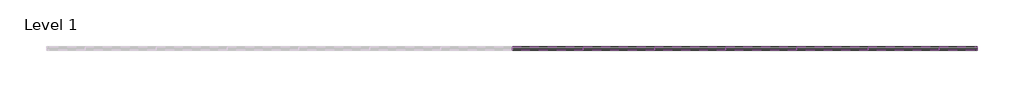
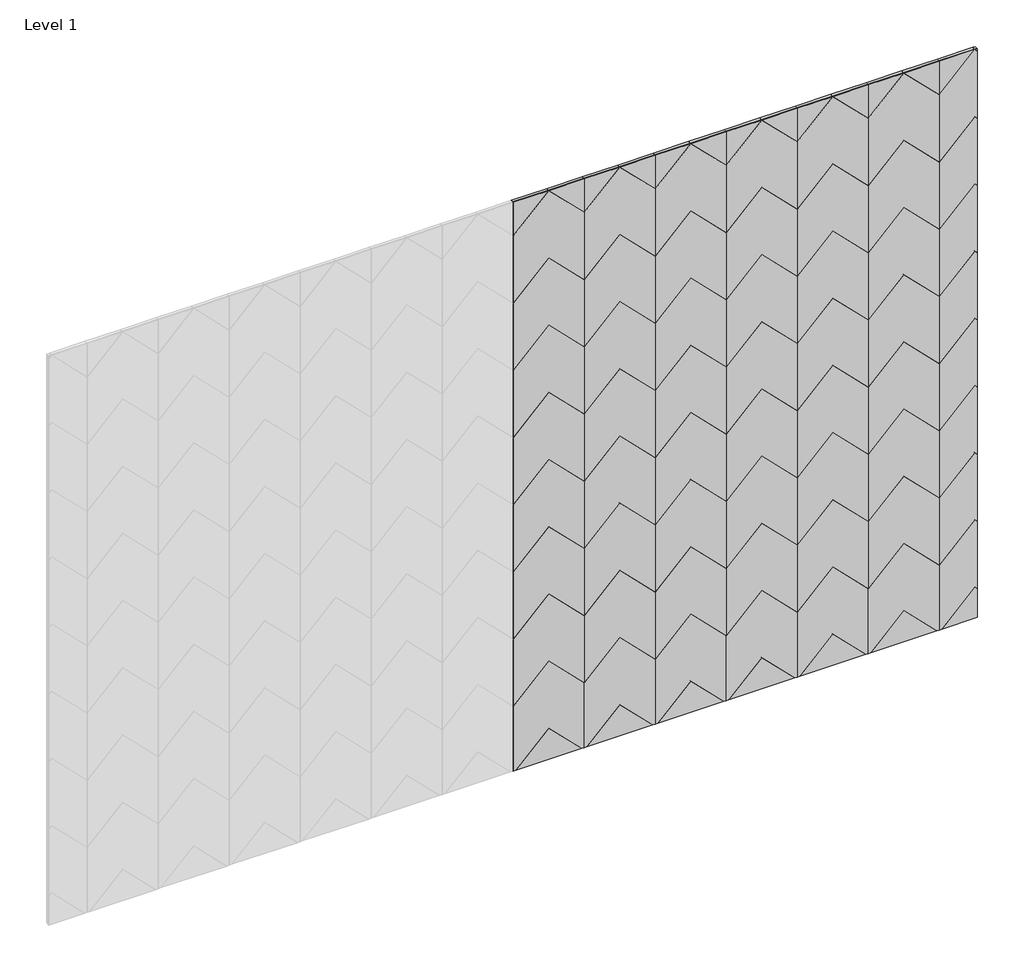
# One storey, part 2 of 2: 70 proxies.
"""IFC4 building model written with IfcOpenShell, lengths in millimetres."""

from ifc_helpers import new_model, si_unit, origin, place, context, project, spatial, transform, mapped, element, save
from components import dart_block_31c125ed, dart_block_84e837c1, dart_block_96afafd7, dart_block_090e8753, dart_block_ae4a8284, dart_block_226adf6a, dart_block_9c98eb1a, dart_block_29ca2576

model = new_model("IFC4")

# Units and contexts
model_context = context("Model", 3, world=origin())
ifc_project = project(units=[si_unit("LENGTHUNIT", "METRE", prefix="MILLI")], contexts=[model_context])

# Site, building, storey
site = spatial("IfcSite", under=ifc_project)
building = spatial("IfcBuilding", under=site)
storey = spatial("IfcBuildingStorey", under=building, Name="Level 1", Elevation=0.0)

# Proxies
placement = place(None, origin())
dart_block_shape = dart_block_31c125ed(model_context)
element("IfcBuildingElementProxy", 1, Name="FilzFelt_Dart_Block : Dart Block", ObjectType="FilzFelt_Dart_Block : Dart Block", at=placement, inside=storey, context=model_context, shape_type="MappedRepresentation", body=[
    mapped(dart_block_shape, transform((7024.9916002, -10315.1339335, 2509.5), x_axis=(1.0, 0.0, 0.0), y_axis=(0.0, 0.0, 1.0), z_axis=(0.0, -1.0, 0.0))),
])
element("IfcBuildingElementProxy", 2, Name="FilzFelt_Dart_Block : Dart Block", ObjectType="FilzFelt_Dart_Block : Dart Block", at=placement, inside=storey, context=model_context, shape_type="MappedRepresentation", body=[
    mapped(dart_block_shape, transform((7024.9916002, -10315.1339335, 1747.5), x_axis=(1.0, 0.0, 0.0), y_axis=(0.0, 0.0, 1.0), z_axis=(0.0, -1.0, 0.0))),
])
element("IfcBuildingElementProxy", 3, Name="FilzFelt_Dart_Block : Dart Block", ObjectType="FilzFelt_Dart_Block : Dart Block", at=placement, inside=storey, context=model_context, shape_type="MappedRepresentation", body=[
    mapped(dart_block_shape, transform((7024.9916002, -10315.1339335, 1239.5), x_axis=(1.0, 0.0, 0.0), y_axis=(0.0, 0.0, 1.0), z_axis=(0.0, -1.0, 0.0))),
])
element("IfcBuildingElementProxy", 4, Name="FilzFelt_Dart_Block : Dart Block", ObjectType="FilzFelt_Dart_Block : Dart Block", at=placement, inside=storey, context=model_context, shape_type="MappedRepresentation", body=[
    mapped(dart_block_shape, transform((7278.9916002, -10315.1339335, 2763.5), x_axis=(1.0, 0.0, 0.0), y_axis=(0.0, 0.0, 1.0), z_axis=(0.0, -1.0, 0.0))),
])
element("IfcBuildingElementProxy", 5, Name="FilzFelt_Dart_Block : Dart Block", ObjectType="FilzFelt_Dart_Block : Dart Block", at=placement, inside=storey, context=model_context, shape_type="MappedRepresentation", body=[
    mapped(dart_block_shape, transform((7278.9916002, -10315.1339335, 2001.5), x_axis=(1.0, 0.0, 0.0), y_axis=(0.0, 0.0, 1.0), z_axis=(0.0, -1.0, 0.0))),
])
element("IfcBuildingElementProxy", 6, Name="FilzFelt_Dart_Block : Dart Block", ObjectType="FilzFelt_Dart_Block : Dart Block", at=placement, inside=storey, context=model_context, shape_type="MappedRepresentation", body=[
    mapped(dart_block_shape, transform((7532.9916002, -10315.1339335, 2255.5), x_axis=(1.0, 0.0, 0.0), y_axis=(0.0, 0.0, 1.0), z_axis=(0.0, -1.0, 0.0))),
])
element("IfcBuildingElementProxy", 7, Name="FilzFelt_Dart_Block : Dart Block", ObjectType="FilzFelt_Dart_Block : Dart Block", at=placement, inside=storey, context=model_context, shape_type="MappedRepresentation", body=[
    mapped(dart_block_shape, transform((7532.9916002, -10315.1339335, 1239.5), x_axis=(1.0, 0.0, 0.0), y_axis=(0.0, 0.0, 1.0), z_axis=(0.0, -1.0, 0.0))),
])
element("IfcBuildingElementProxy", 8, Name="FilzFelt_Dart_Block : Dart Block", ObjectType="FilzFelt_Dart_Block : Dart Block", at=placement, inside=storey, context=model_context, shape_type="MappedRepresentation", body=[
    mapped(dart_block_shape, transform((7786.9916002, -10315.1339335, 2763.5), x_axis=(1.0, 0.0, 0.0), y_axis=(0.0, 0.0, 1.0), z_axis=(0.0, -1.0, 0.0))),
])
element("IfcBuildingElementProxy", 9, Name="FilzFelt_Dart_Block : Dart Block", ObjectType="FilzFelt_Dart_Block : Dart Block", at=placement, inside=storey, context=model_context, shape_type="MappedRepresentation", body=[
    mapped(dart_block_shape, transform((7786.9916002, -10315.1339335, 2255.5), x_axis=(1.0, 0.0, 0.0), y_axis=(0.0, 0.0, 1.0), z_axis=(0.0, -1.0, 0.0))),
])
element("IfcBuildingElementProxy", 10, Name="FilzFelt_Dart_Block : Dart Block", ObjectType="FilzFelt_Dart_Block : Dart Block", at=placement, inside=storey, context=model_context, shape_type="MappedRepresentation", body=[
    mapped(dart_block_shape, transform((7786.9916002, -10315.1339335, 1747.5), x_axis=(1.0, 0.0, 0.0), y_axis=(0.0, 0.0, 1.0), z_axis=(0.0, -1.0, 0.0))),
])
element("IfcBuildingElementProxy", 11, Name="FilzFelt_Dart_Block : Dart Block", ObjectType="FilzFelt_Dart_Block : Dart Block", at=placement, inside=storey, context=model_context, shape_type="MappedRepresentation", body=[
    mapped(dart_block_shape, transform((8040.9916002, -10315.1339335, 2509.5), x_axis=(1.0, 0.0, 0.0), y_axis=(0.0, 0.0, 1.0), z_axis=(0.0, -1.0, 0.0))),
])
element("IfcBuildingElementProxy", 12, Name="FilzFelt_Dart_Block : Dart Block", ObjectType="FilzFelt_Dart_Block : Dart Block", at=placement, inside=storey, context=model_context, shape_type="MappedRepresentation", body=[
    mapped(dart_block_shape, transform((8040.9916002, -10315.1339335, 1493.5), x_axis=(1.0, 0.0, 0.0), y_axis=(0.0, 0.0, 1.0), z_axis=(0.0, -1.0, 0.0))),
])
element("IfcBuildingElementProxy", 13, Name="FilzFelt_Dart_Block : Dart Block", ObjectType="FilzFelt_Dart_Block : Dart Block", at=placement, inside=storey, context=model_context, shape_type="MappedRepresentation", body=[
    mapped(dart_block_shape, transform((8294.9916002, -10315.1339335, 2001.5), x_axis=(1.0, 0.0, 0.0), y_axis=(0.0, 0.0, 1.0), z_axis=(0.0, -1.0, 0.0))),
])
element("IfcBuildingElementProxy", 14, Name="FilzFelt_Dart_Block : Dart Block", ObjectType="FilzFelt_Dart_Block : Dart Block", at=placement, inside=storey, context=model_context, shape_type="MappedRepresentation", body=[
    mapped(dart_block_shape, transform((8294.9916002, -10315.1339335, 1493.5), x_axis=(1.0, 0.0, 0.0), y_axis=(0.0, 0.0, 1.0), z_axis=(0.0, -1.0, 0.0))),
])
dart_block_2_shape = dart_block_84e837c1(model_context)
element("IfcBuildingElementProxy", 15, Name="FilzFelt_Dart_Block : Dart Block", ObjectType="FilzFelt_Dart_Block : Dart Block", at=placement, inside=storey, context=model_context, shape_type="MappedRepresentation", body=[
    mapped(dart_block_2_shape, transform((7024.9916002, -10315.1339335, 3017.5), x_axis=(1.0, 0.0, 0.0), y_axis=(0.0, 0.0, 1.0), z_axis=(0.0, -1.0, 0.0))),
])
element("IfcBuildingElementProxy", 16, Name="FilzFelt_Dart_Block : Dart Block", ObjectType="FilzFelt_Dart_Block : Dart Block", at=placement, inside=storey, context=model_context, shape_type="MappedRepresentation", body=[
    mapped(dart_block_2_shape, transform((8294.9916002, -10315.1339335, 3017.5), x_axis=(1.0, 0.0, 0.0), y_axis=(0.0, 0.0, 1.0), z_axis=(0.0, -1.0, 0.0))),
])
dart_block_3_shape = dart_block_96afafd7(model_context)
element("IfcBuildingElementProxy", 17, Name="FilzFelt_Dart_Block : Dart Block", ObjectType="FilzFelt_Dart_Block : Dart Block", at=placement, inside=storey, context=model_context, shape_type="MappedRepresentation", body=[
    mapped(dart_block_3_shape, transform((7278.9916002, -10315.1339335, 985.5), x_axis=(1.0, 0.0, 0.0), y_axis=(0.0, 0.0, 1.0), z_axis=(0.0, -1.0, 0.0))),
])
dart_block_4_shape = dart_block_090e8753(model_context)
element("IfcBuildingElementProxy", 18, Name="FilzFelt_Dart_Block : Dart Block", ObjectType="FilzFelt_Dart_Block : Dart Block", at=placement, inside=storey, context=model_context, shape_type="MappedRepresentation", body=[
    mapped(dart_block_4_shape, transform((8548.9916002, -10315.1339335, 2763.5), x_axis=(1.0, 0.0, 0.0), y_axis=(0.0, 0.0, 1.0), z_axis=(0.0, -1.0, 0.0))),
])
element("IfcBuildingElementProxy", 19, Name="FilzFelt_Dart_Block : Dart Block", ObjectType="FilzFelt_Dart_Block : Dart Block", at=placement, inside=storey, context=model_context, shape_type="MappedRepresentation", body=[
    mapped(dart_block_4_shape, transform((8548.9916002, -10315.1339335, 2255.5), x_axis=(1.0, 0.0, 0.0), y_axis=(0.0, 0.0, 1.0), z_axis=(0.0, -1.0, 0.0))),
])
element("IfcBuildingElementProxy", 20, Name="FilzFelt_Dart_Block : Dart Block", ObjectType="FilzFelt_Dart_Block : Dart Block", at=placement, inside=storey, context=model_context, shape_type="MappedRepresentation", body=[
    mapped(dart_block_4_shape, transform((8548.9916002, -10315.1339335, 1493.5), x_axis=(1.0, 0.0, 0.0), y_axis=(0.0, 0.0, 1.0), z_axis=(0.0, -1.0, 0.0))),
])
dart_block_5_shape = dart_block_ae4a8284(model_context)
element("IfcBuildingElementProxy", 21, Name="FilzFelt_Dart_Block : Dart Block", ObjectType="FilzFelt_Dart_Block : Dart Block", at=placement, inside=storey, context=model_context, shape_type="MappedRepresentation", body=[
    mapped(dart_block_5_shape, transform((8548.9916002, -10315.1339335, 731.5), x_axis=(1.0, 0.0, 0.0), y_axis=(0.0, 0.0, 1.0), z_axis=(0.0, -1.0, 0.0))),
])
dart_block_6_shape = dart_block_226adf6a(model_context)
element("IfcBuildingElementProxy", 22, Name="FilzFelt_Dart_Block : Dart Block", ObjectType="FilzFelt_Dart_Block : Dart Block", at=placement, inside=storey, context=model_context, shape_type="MappedRepresentation", body=[
    mapped(dart_block_6_shape, transform((8294.9916002, -10315.1339335, 731.5), x_axis=(1.0, 0.0, 0.0), y_axis=(0.0, 0.0, 1.0), z_axis=(0.0, -1.0, 0.0))),
])
element("IfcBuildingElementProxy", 23, Name="FilzFelt_Dart_Block : Dart Block", ObjectType="FilzFelt_Dart_Block : Dart Block", at=placement, inside=storey, context=model_context, shape_type="MappedRepresentation", body=[
    mapped(dart_block_6_shape, transform((8040.9916002, -10315.1339335, 731.5), x_axis=(1.0, 0.0, 0.0), y_axis=(0.0, 0.0, 1.0), z_axis=(0.0, -1.0, 0.0))),
])
element("IfcBuildingElementProxy", 24, Name="FilzFelt_Dart_Block : Dart Block", ObjectType="FilzFelt_Dart_Block : Dart Block", at=placement, inside=storey, context=model_context, shape_type="MappedRepresentation", body=[
    mapped(dart_block_6_shape, transform((7532.9916002, -10315.1339335, 731.5), x_axis=(1.0, 0.0, 0.0), y_axis=(0.0, 0.0, 1.0), z_axis=(0.0, -1.0, 0.0))),
])
element("IfcBuildingElementProxy", 25, Name="FilzFelt_Dart_Block : Dart Block", ObjectType="FilzFelt_Dart_Block : Dart Block", at=placement, inside=storey, context=model_context, shape_type="MappedRepresentation", body=[
    mapped(dart_block_6_shape, transform((7024.9916002, -10315.1339335, 731.5), x_axis=(1.0, 0.0, 0.0), y_axis=(0.0, 0.0, 1.0), z_axis=(0.0, -1.0, 0.0))),
])
element("IfcBuildingElementProxy", 26, Name="FilzFelt_Dart_Block : Dart Block", ObjectType="FilzFelt_Dart_Block : Dart Block", at=placement, inside=storey, context=model_context, shape_type="MappedRepresentation", body=[
    mapped(dart_block_shape, transform((7024.9916002, -10315.1339335, 2763.5), x_axis=(1.0, 0.0, 0.0), y_axis=(0.0, 0.0, 1.0), z_axis=(0.0, -1.0, 0.0))),
])
element("IfcBuildingElementProxy", 27, Name="FilzFelt_Dart_Block : Dart Block", ObjectType="FilzFelt_Dart_Block : Dart Block", at=placement, inside=storey, context=model_context, shape_type="MappedRepresentation", body=[
    mapped(dart_block_shape, transform((7024.9916002, -10315.1339335, 2255.5), x_axis=(1.0, 0.0, 0.0), y_axis=(0.0, 0.0, 1.0), z_axis=(0.0, -1.0, 0.0))),
])
element("IfcBuildingElementProxy", 28, Name="FilzFelt_Dart_Block : Dart Block", ObjectType="FilzFelt_Dart_Block : Dart Block", at=placement, inside=storey, context=model_context, shape_type="MappedRepresentation", body=[
    mapped(dart_block_shape, transform((7024.9916002, -10315.1339335, 1493.5), x_axis=(1.0, 0.0, 0.0), y_axis=(0.0, 0.0, 1.0), z_axis=(0.0, -1.0, 0.0))),
])
element("IfcBuildingElementProxy", 29, Name="FilzFelt_Dart_Block : Dart Block", ObjectType="FilzFelt_Dart_Block : Dart Block", at=placement, inside=storey, context=model_context, shape_type="MappedRepresentation", body=[
    mapped(dart_block_shape, transform((7278.9916002, -10315.1339335, 2255.5), x_axis=(1.0, 0.0, 0.0), y_axis=(0.0, 0.0, 1.0), z_axis=(0.0, -1.0, 0.0))),
])
element("IfcBuildingElementProxy", 30, Name="FilzFelt_Dart_Block : Dart Block", ObjectType="FilzFelt_Dart_Block : Dart Block", at=placement, inside=storey, context=model_context, shape_type="MappedRepresentation", body=[
    mapped(dart_block_shape, transform((7278.9916002, -10315.1339335, 1493.5), x_axis=(1.0, 0.0, 0.0), y_axis=(0.0, 0.0, 1.0), z_axis=(0.0, -1.0, 0.0))),
])
element("IfcBuildingElementProxy", 31, Name="FilzFelt_Dart_Block : Dart Block", ObjectType="FilzFelt_Dart_Block : Dart Block", at=placement, inside=storey, context=model_context, shape_type="MappedRepresentation", body=[
    mapped(dart_block_shape, transform((7532.9916002, -10315.1339335, 2509.5), x_axis=(1.0, 0.0, 0.0), y_axis=(0.0, 0.0, 1.0), z_axis=(0.0, -1.0, 0.0))),
])
element("IfcBuildingElementProxy", 32, Name="FilzFelt_Dart_Block : Dart Block", ObjectType="FilzFelt_Dart_Block : Dart Block", at=placement, inside=storey, context=model_context, shape_type="MappedRepresentation", body=[
    mapped(dart_block_shape, transform((7532.9916002, -10315.1339335, 1747.5), x_axis=(1.0, 0.0, 0.0), y_axis=(0.0, 0.0, 1.0), z_axis=(0.0, -1.0, 0.0))),
])
element("IfcBuildingElementProxy", 33, Name="FilzFelt_Dart_Block : Dart Block", ObjectType="FilzFelt_Dart_Block : Dart Block", at=placement, inside=storey, context=model_context, shape_type="MappedRepresentation", body=[
    mapped(dart_block_shape, transform((7786.9916002, -10315.1339335, 2001.5), x_axis=(1.0, 0.0, 0.0), y_axis=(0.0, 0.0, 1.0), z_axis=(0.0, -1.0, 0.0))),
])
element("IfcBuildingElementProxy", 34, Name="FilzFelt_Dart_Block : Dart Block", ObjectType="FilzFelt_Dart_Block : Dart Block", at=placement, inside=storey, context=model_context, shape_type="MappedRepresentation", body=[
    mapped(dart_block_shape, transform((7786.9916002, -10315.1339335, 1493.5), x_axis=(1.0, 0.0, 0.0), y_axis=(0.0, 0.0, 1.0), z_axis=(0.0, -1.0, 0.0))),
])
element("IfcBuildingElementProxy", 35, Name="FilzFelt_Dart_Block : Dart Block", ObjectType="FilzFelt_Dart_Block : Dart Block", at=placement, inside=storey, context=model_context, shape_type="MappedRepresentation", body=[
    mapped(dart_block_shape, transform((8040.9916002, -10315.1339335, 2763.5), x_axis=(1.0, 0.0, 0.0), y_axis=(0.0, 0.0, 1.0), z_axis=(0.0, -1.0, 0.0))),
])
element("IfcBuildingElementProxy", 36, Name="FilzFelt_Dart_Block : Dart Block", ObjectType="FilzFelt_Dart_Block : Dart Block", at=placement, inside=storey, context=model_context, shape_type="MappedRepresentation", body=[
    mapped(dart_block_shape, transform((8040.9916002, -10315.1339335, 2255.5), x_axis=(1.0, 0.0, 0.0), y_axis=(0.0, 0.0, 1.0), z_axis=(0.0, -1.0, 0.0))),
])
element("IfcBuildingElementProxy", 37, Name="FilzFelt_Dart_Block : Dart Block", ObjectType="FilzFelt_Dart_Block : Dart Block", at=placement, inside=storey, context=model_context, shape_type="MappedRepresentation", body=[
    mapped(dart_block_shape, transform((8040.9916002, -10315.1339335, 1747.5), x_axis=(1.0, 0.0, 0.0), y_axis=(0.0, 0.0, 1.0), z_axis=(0.0, -1.0, 0.0))),
])
element("IfcBuildingElementProxy", 38, Name="FilzFelt_Dart_Block : Dart Block", ObjectType="FilzFelt_Dart_Block : Dart Block", at=placement, inside=storey, context=model_context, shape_type="MappedRepresentation", body=[
    mapped(dart_block_shape, transform((8040.9916002, -10315.1339335, 1239.5), x_axis=(1.0, 0.0, 0.0), y_axis=(0.0, 0.0, 1.0), z_axis=(0.0, -1.0, 0.0))),
])
element("IfcBuildingElementProxy", 39, Name="FilzFelt_Dart_Block : Dart Block", ObjectType="FilzFelt_Dart_Block : Dart Block", at=placement, inside=storey, context=model_context, shape_type="MappedRepresentation", body=[
    mapped(dart_block_shape, transform((8294.9916002, -10315.1339335, 2763.5), x_axis=(1.0, 0.0, 0.0), y_axis=(0.0, 0.0, 1.0), z_axis=(0.0, -1.0, 0.0))),
])
element("IfcBuildingElementProxy", 40, Name="FilzFelt_Dart_Block : Dart Block", ObjectType="FilzFelt_Dart_Block : Dart Block", at=placement, inside=storey, context=model_context, shape_type="MappedRepresentation", body=[
    mapped(dart_block_shape, transform((8294.9916002, -10315.1339335, 2255.5), x_axis=(1.0, 0.0, 0.0), y_axis=(0.0, 0.0, 1.0), z_axis=(0.0, -1.0, 0.0))),
])
element("IfcBuildingElementProxy", 41, Name="FilzFelt_Dart_Block : Dart Block", ObjectType="FilzFelt_Dart_Block : Dart Block", at=placement, inside=storey, context=model_context, shape_type="MappedRepresentation", body=[
    mapped(dart_block_2_shape, transform((7532.9916002, -10315.1339335, 3017.5), x_axis=(1.0, 0.0, 0.0), y_axis=(0.0, 0.0, 1.0), z_axis=(0.0, -1.0, 0.0))),
])
element("IfcBuildingElementProxy", 42, Name="FilzFelt_Dart_Block : Dart Block", ObjectType="FilzFelt_Dart_Block : Dart Block", at=placement, inside=storey, context=model_context, shape_type="MappedRepresentation", body=[
    mapped(dart_block_2_shape, transform((7786.9916002, -10315.1339335, 3017.5), x_axis=(1.0, 0.0, 0.0), y_axis=(0.0, 0.0, 1.0), z_axis=(0.0, -1.0, 0.0))),
])
element("IfcBuildingElementProxy", 43, Name="FilzFelt_Dart_Block : Dart Block", ObjectType="FilzFelt_Dart_Block : Dart Block", at=placement, inside=storey, context=model_context, shape_type="MappedRepresentation", body=[
    mapped(dart_block_3_shape, transform((8294.9916002, -10315.1339335, 985.5), x_axis=(1.0, 0.0, 0.0), y_axis=(0.0, 0.0, 1.0), z_axis=(0.0, -1.0, 0.0))),
])
element("IfcBuildingElementProxy", 44, Name="FilzFelt_Dart_Block : Dart Block", ObjectType="FilzFelt_Dart_Block : Dart Block", at=placement, inside=storey, context=model_context, shape_type="MappedRepresentation", body=[
    mapped(dart_block_3_shape, transform((7786.9916002, -10315.1339335, 985.5), x_axis=(1.0, 0.0, 0.0), y_axis=(0.0, 0.0, 1.0), z_axis=(0.0, -1.0, 0.0))),
])
element("IfcBuildingElementProxy", 45, Name="FilzFelt_Dart_Block : Dart Block", ObjectType="FilzFelt_Dart_Block : Dart Block", at=placement, inside=storey, context=model_context, shape_type="MappedRepresentation", body=[
    mapped(dart_block_3_shape, transform((7532.9916002, -10315.1339335, 985.5), x_axis=(1.0, 0.0, 0.0), y_axis=(0.0, 0.0, 1.0), z_axis=(0.0, -1.0, 0.0))),
])
element("IfcBuildingElementProxy", 46, Name="FilzFelt_Dart_Block : Dart Block", ObjectType="FilzFelt_Dart_Block : Dart Block", at=placement, inside=storey, context=model_context, shape_type="MappedRepresentation", body=[
    mapped(dart_block_4_shape, transform((8548.9916002, -10315.1339335, 2509.5), x_axis=(1.0, 0.0, 0.0), y_axis=(0.0, 0.0, 1.0), z_axis=(0.0, -1.0, 0.0))),
])
element("IfcBuildingElementProxy", 47, Name="FilzFelt_Dart_Block : Dart Block", ObjectType="FilzFelt_Dart_Block : Dart Block", at=placement, inside=storey, context=model_context, shape_type="MappedRepresentation", body=[
    mapped(dart_block_4_shape, transform((8548.9916002, -10315.1339335, 2001.5), x_axis=(1.0, 0.0, 0.0), y_axis=(0.0, 0.0, 1.0), z_axis=(0.0, -1.0, 0.0))),
])
element("IfcBuildingElementProxy", 48, Name="FilzFelt_Dart_Block : Dart Block", ObjectType="FilzFelt_Dart_Block : Dart Block", at=placement, inside=storey, context=model_context, shape_type="MappedRepresentation", body=[
    mapped(dart_block_4_shape, transform((8548.9916002, -10315.1339335, 1239.5), x_axis=(1.0, 0.0, 0.0), y_axis=(0.0, 0.0, 1.0), z_axis=(0.0, -1.0, 0.0))),
])
dart_block_7_shape = dart_block_9c98eb1a(model_context)
element("IfcBuildingElementProxy", 49, Name="FilzFelt_Dart_Block : Dart Block", ObjectType="FilzFelt_Dart_Block : Dart Block", at=placement, inside=storey, context=model_context, shape_type="MappedRepresentation", body=[
    mapped(dart_block_7_shape, transform((8548.9916002, -10315.1339335, 3017.5), x_axis=(1.0, 0.0, 0.0), y_axis=(0.0, 0.0, 1.0), z_axis=(0.0, -1.0, 0.0))),
])
element("IfcBuildingElementProxy", 50, Name="FilzFelt_Dart_Block : Dart Block", ObjectType="FilzFelt_Dart_Block : Dart Block", at=placement, inside=storey, context=model_context, shape_type="MappedRepresentation", body=[
    mapped(dart_block_shape, transform((7024.9916002, -10315.1339335, 2001.5), x_axis=(1.0, 0.0, 0.0), y_axis=(0.0, 0.0, 1.0), z_axis=(0.0, -1.0, 0.0))),
])
element("IfcBuildingElementProxy", 51, Name="FilzFelt_Dart_Block : Dart Block", ObjectType="FilzFelt_Dart_Block : Dart Block", at=placement, inside=storey, context=model_context, shape_type="MappedRepresentation", body=[
    mapped(dart_block_shape, transform((7278.9916002, -10315.1339335, 2509.5), x_axis=(1.0, 0.0, 0.0), y_axis=(0.0, 0.0, 1.0), z_axis=(0.0, -1.0, 0.0))),
])
element("IfcBuildingElementProxy", 52, Name="FilzFelt_Dart_Block : Dart Block", ObjectType="FilzFelt_Dart_Block : Dart Block", at=placement, inside=storey, context=model_context, shape_type="MappedRepresentation", body=[
    mapped(dart_block_shape, transform((7278.9916002, -10315.1339335, 1747.5), x_axis=(1.0, 0.0, 0.0), y_axis=(0.0, 0.0, 1.0), z_axis=(0.0, -1.0, 0.0))),
])
element("IfcBuildingElementProxy", 53, Name="FilzFelt_Dart_Block : Dart Block", ObjectType="FilzFelt_Dart_Block : Dart Block", at=placement, inside=storey, context=model_context, shape_type="MappedRepresentation", body=[
    mapped(dart_block_shape, transform((7278.9916002, -10315.1339335, 1239.5), x_axis=(1.0, 0.0, 0.0), y_axis=(0.0, 0.0, 1.0), z_axis=(0.0, -1.0, 0.0))),
])
element("IfcBuildingElementProxy", 54, Name="FilzFelt_Dart_Block : Dart Block", ObjectType="FilzFelt_Dart_Block : Dart Block", at=placement, inside=storey, context=model_context, shape_type="MappedRepresentation", body=[
    mapped(dart_block_shape, transform((7532.9916002, -10315.1339335, 2763.5), x_axis=(1.0, 0.0, 0.0), y_axis=(0.0, 0.0, 1.0), z_axis=(0.0, -1.0, 0.0))),
])
element("IfcBuildingElementProxy", 55, Name="FilzFelt_Dart_Block : Dart Block", ObjectType="FilzFelt_Dart_Block : Dart Block", at=placement, inside=storey, context=model_context, shape_type="MappedRepresentation", body=[
    mapped(dart_block_shape, transform((7532.9916002, -10315.1339335, 2001.5), x_axis=(1.0, 0.0, 0.0), y_axis=(0.0, 0.0, 1.0), z_axis=(0.0, -1.0, 0.0))),
])
element("IfcBuildingElementProxy", 56, Name="FilzFelt_Dart_Block : Dart Block", ObjectType="FilzFelt_Dart_Block : Dart Block", at=placement, inside=storey, context=model_context, shape_type="MappedRepresentation", body=[
    mapped(dart_block_shape, transform((7532.9916002, -10315.1339335, 1493.5), x_axis=(1.0, 0.0, 0.0), y_axis=(0.0, 0.0, 1.0), z_axis=(0.0, -1.0, 0.0))),
])
element("IfcBuildingElementProxy", 57, Name="FilzFelt_Dart_Block : Dart Block", ObjectType="FilzFelt_Dart_Block : Dart Block", at=placement, inside=storey, context=model_context, shape_type="MappedRepresentation", body=[
    mapped(dart_block_shape, transform((7786.9916002, -10315.1339335, 2509.5), x_axis=(1.0, 0.0, 0.0), y_axis=(0.0, 0.0, 1.0), z_axis=(0.0, -1.0, 0.0))),
])
element("IfcBuildingElementProxy", 58, Name="FilzFelt_Dart_Block : Dart Block", ObjectType="FilzFelt_Dart_Block : Dart Block", at=placement, inside=storey, context=model_context, shape_type="MappedRepresentation", body=[
    mapped(dart_block_shape, transform((7786.9916002, -10315.1339335, 1239.5), x_axis=(1.0, 0.0, 0.0), y_axis=(0.0, 0.0, 1.0), z_axis=(0.0, -1.0, 0.0))),
])
element("IfcBuildingElementProxy", 59, Name="FilzFelt_Dart_Block : Dart Block", ObjectType="FilzFelt_Dart_Block : Dart Block", at=placement, inside=storey, context=model_context, shape_type="MappedRepresentation", body=[
    mapped(dart_block_shape, transform((8040.9916002, -10315.1339335, 2001.5), x_axis=(1.0, 0.0, 0.0), y_axis=(0.0, 0.0, 1.0), z_axis=(0.0, -1.0, 0.0))),
])
element("IfcBuildingElementProxy", 60, Name="FilzFelt_Dart_Block : Dart Block", ObjectType="FilzFelt_Dart_Block : Dart Block", at=placement, inside=storey, context=model_context, shape_type="MappedRepresentation", body=[
    mapped(dart_block_shape, transform((8294.9916002, -10315.1339335, 2509.5), x_axis=(1.0, 0.0, 0.0), y_axis=(0.0, 0.0, 1.0), z_axis=(0.0, -1.0, 0.0))),
])
element("IfcBuildingElementProxy", 61, Name="FilzFelt_Dart_Block : Dart Block", ObjectType="FilzFelt_Dart_Block : Dart Block", at=placement, inside=storey, context=model_context, shape_type="MappedRepresentation", body=[
    mapped(dart_block_shape, transform((8294.9916002, -10315.1339335, 1747.5), x_axis=(1.0, 0.0, 0.0), y_axis=(0.0, 0.0, 1.0), z_axis=(0.0, -1.0, 0.0))),
])
element("IfcBuildingElementProxy", 62, Name="FilzFelt_Dart_Block : Dart Block", ObjectType="FilzFelt_Dart_Block : Dart Block", at=placement, inside=storey, context=model_context, shape_type="MappedRepresentation", body=[
    mapped(dart_block_shape, transform((8294.9916002, -10315.1339335, 1239.5), x_axis=(1.0, 0.0, 0.0), y_axis=(0.0, 0.0, 1.0), z_axis=(0.0, -1.0, 0.0))),
])
element("IfcBuildingElementProxy", 63, Name="FilzFelt_Dart_Block : Dart Block", ObjectType="FilzFelt_Dart_Block : Dart Block", at=placement, inside=storey, context=model_context, shape_type="MappedRepresentation", body=[
    mapped(dart_block_2_shape, transform((7278.9916002, -10315.1339335, 3017.5), x_axis=(1.0, 0.0, 0.0), y_axis=(0.0, 0.0, 1.0), z_axis=(0.0, -1.0, 0.0))),
])
element("IfcBuildingElementProxy", 64, Name="FilzFelt_Dart_Block : Dart Block", ObjectType="FilzFelt_Dart_Block : Dart Block", at=placement, inside=storey, context=model_context, shape_type="MappedRepresentation", body=[
    mapped(dart_block_2_shape, transform((8040.9916002, -10315.1339335, 3017.5), x_axis=(1.0, 0.0, 0.0), y_axis=(0.0, 0.0, 1.0), z_axis=(0.0, -1.0, 0.0))),
])
element("IfcBuildingElementProxy", 65, Name="FilzFelt_Dart_Block : Dart Block", ObjectType="FilzFelt_Dart_Block : Dart Block", at=placement, inside=storey, context=model_context, shape_type="MappedRepresentation", body=[
    mapped(dart_block_4_shape, transform((8548.9916002, -10315.1339335, 1747.5), x_axis=(1.0, 0.0, 0.0), y_axis=(0.0, 0.0, 1.0), z_axis=(0.0, -1.0, 0.0))),
])
dart_block_8_shape = dart_block_29ca2576(model_context)
element("IfcBuildingElementProxy", 66, Name="FilzFelt_Dart_Block : Dart Block", ObjectType="FilzFelt_Dart_Block : Dart Block", at=placement, inside=storey, context=model_context, shape_type="MappedRepresentation", body=[
    mapped(dart_block_8_shape, transform((8548.9916002, -10315.1339335, 985.5), x_axis=(1.0, 0.0, 0.0), y_axis=(0.0, 0.0, 1.0), z_axis=(0.0, -1.0, 0.0))),
])
element("IfcBuildingElementProxy", 67, Name="FilzFelt_Dart_Block : Dart Block", ObjectType="FilzFelt_Dart_Block : Dart Block", at=placement, inside=storey, context=model_context, shape_type="MappedRepresentation", body=[
    mapped(dart_block_3_shape, transform((8040.9916002, -10315.1339335, 985.5), x_axis=(1.0, 0.0, 0.0), y_axis=(0.0, 0.0, 1.0), z_axis=(0.0, -1.0, 0.0))),
])
element("IfcBuildingElementProxy", 68, Name="FilzFelt_Dart_Block : Dart Block", ObjectType="FilzFelt_Dart_Block : Dart Block", at=placement, inside=storey, context=model_context, shape_type="MappedRepresentation", body=[
    mapped(dart_block_3_shape, transform((7024.9916002, -10315.1339335, 985.5), x_axis=(1.0, 0.0, 0.0), y_axis=(0.0, 0.0, 1.0), z_axis=(0.0, -1.0, 0.0))),
])
element("IfcBuildingElementProxy", 69, Name="FilzFelt_Dart_Block : Dart Block", ObjectType="FilzFelt_Dart_Block : Dart Block", at=placement, inside=storey, context=model_context, shape_type="MappedRepresentation", body=[
    mapped(dart_block_6_shape, transform((7786.9916002, -10315.1339335, 731.5), x_axis=(1.0, 0.0, 0.0), y_axis=(0.0, 0.0, 1.0), z_axis=(0.0, -1.0, 0.0))),
])
element("IfcBuildingElementProxy", 70, Name="FilzFelt_Dart_Block : Dart Block", ObjectType="FilzFelt_Dart_Block : Dart Block", at=placement, inside=storey, context=model_context, shape_type="MappedRepresentation", body=[
    mapped(dart_block_6_shape, transform((7278.9916002, -10315.1339335, 731.5), x_axis=(1.0, 0.0, 0.0), y_axis=(0.0, 0.0, 1.0), z_axis=(0.0, -1.0, 0.0))),
])

save(model, "model.ifc")
